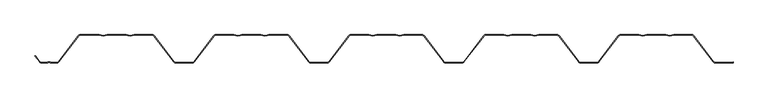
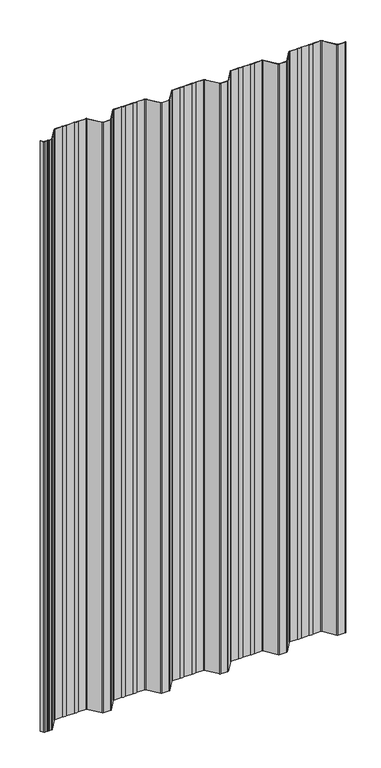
"""IFC4 building model written with IfcOpenShell, lengths in millimetres: plate geometry, HIANSA - H20.F09.004-CHAPA PERFILADA FACHADA VERTICAL - MT42 - Panel de Muro Cortina : -."""

from ifc_helpers import new_model, si_unit, point, frame_2d, origin, origin_with_axes, place, context, project, spatial, polyline, circle_curve, trimmed, segment, composite_curve, outline, extrude, source, transform, mapped, element, save


def plate_37bc8b78(model_context):
    return source(origin(), model_context, "Body", "SweptSolid", [
        extrude(outline(composite_curve([segment(polyline([(53.2159218, -0.8), (26.0663002, -0.8)]), True, "CONTINUOUS"), segment(trimmed(circle_curve(frame_2d((19.9999998, 17.1)), 18.9), [point((26.0663002, -0.8))], [point((13.9336995, -0.8))], False, "CARTESIAN"), True, "CONTINUOUS"), segment(polyline([(13.9336995, -0.8), (-13.9336998, -0.8)]), True, "CONTINUOUS"), segment(trimmed(circle_curve(frame_2d((-20.0000002, 17.1)), 18.9), [point((-13.9336998, -0.8))], [point((-26.0663005, -0.8))], False, "CARTESIAN"), True, "CONTINUOUS"), segment(polyline([(-26.0663005, -0.8), (-53.2159221, -0.8)]), True, "CONTINUOUS"), segment(trimmed(circle_curve(frame_2d((-53.2159221, -3.4)), 2.6), [point((-53.2159221, -0.8))], [point((-55.2841531, -1.8244302))], True, "CARTESIAN"), True, "CONTINUOUS"), segment(polyline([(-55.2841531, -1.8244302), (-84.9453835, -40.7603606)]), True, "CONTINUOUS"), segment(trimmed(circle_curve(frame_2d((-87.6499934, -38.7)), 3.4), [point((-84.9453835, -40.7603606))], [point((-87.6499934, -42.1))], False, "CARTESIAN"), True, "CONTINUOUS"), segment(polyline([(-87.6499934, -42.1), (-112.350007, -42.1)]), True, "CONTINUOUS"), segment(trimmed(circle_curve(frame_2d((-112.350007, -38.7)), 3.4), [point((-112.350007, -42.1))], [point((-115.0546168, -40.7603606))], False, "CARTESIAN"), True, "CONTINUOUS"), segment(polyline([(-115.0546168, -40.7603606), (-144.7158472, -1.8244302)]), True, "CONTINUOUS"), segment(trimmed(circle_curve(frame_2d((-146.7840782, -3.4)), 2.6), [point((-144.7158472, -1.8244302))], [point((-146.7840782, -0.8))], True, "CARTESIAN"), True, "CONTINUOUS"), segment(polyline([(-146.7840782, -0.8), (-173.9336998, -0.8)]), True, "CONTINUOUS"), segment(trimmed(circle_curve(frame_2d((-180.0000002, 17.1)), 18.9), [point((-173.9336998, -0.8))], [point((-186.0663005, -0.8))], False, "CARTESIAN"), True, "CONTINUOUS"), segment(polyline([(-186.0663005, -0.8), (-213.9336998, -0.8)]), True, "CONTINUOUS"), segment(trimmed(circle_curve(frame_2d((-220.0000002, 17.1)), 18.9), [point((-213.9336998, -0.8))], [point((-226.0663005, -0.8))], False, "CARTESIAN"), True, "CONTINUOUS"), segment(polyline([(-226.0663005, -0.8), (-253.2159221, -0.8)]), True, "CONTINUOUS"), segment(trimmed(circle_curve(frame_2d((-253.2159221, -3.4)), 2.6), [point((-253.2159221, -0.8))], [point((-255.2841531, -1.8244302))], True, "CARTESIAN"), True, "CONTINUOUS"), segment(polyline([(-255.2841531, -1.8244302), (-284.9453835, -40.7603606)]), True, "CONTINUOUS"), segment(trimmed(circle_curve(frame_2d((-287.6499934, -38.7)), 3.4), [point((-284.9453835, -40.7603606))], [point((-287.6499934, -42.1))], False, "CARTESIAN"), True, "CONTINUOUS"), segment(polyline([(-287.6499934, -42.1), (-312.350007, -42.1)]), True, "CONTINUOUS"), segment(trimmed(circle_curve(frame_2d((-312.350007, -38.7)), 3.4), [point((-312.350007, -42.1))], [point((-315.0546168, -40.7603606))], False, "CARTESIAN"), True, "CONTINUOUS"), segment(polyline([(-315.0546168, -40.7603606), (-344.7158472, -1.8244302)]), True, "CONTINUOUS"), segment(trimmed(circle_curve(frame_2d((-346.7840782, -3.4)), 2.6), [point((-344.7158472, -1.8244302))], [point((-346.7840782, -0.8))], True, "CARTESIAN"), True, "CONTINUOUS"), segment(polyline([(-346.7840782, -0.8), (-373.9336998, -0.8)]), True, "CONTINUOUS"), segment(trimmed(circle_curve(frame_2d((-380.0000002, 17.1)), 18.9), [point((-373.9336998, -0.8))], [point((-386.0663005, -0.8))], False, "CARTESIAN"), True, "CONTINUOUS"), segment(polyline([(-386.0663005, -0.8), (-413.9336998, -0.8)]), True, "CONTINUOUS"), segment(trimmed(circle_curve(frame_2d((-420.0000002, 17.1)), 18.9), [point((-413.9336998, -0.8))], [point((-426.0663005, -0.8))], False, "CARTESIAN"), True, "CONTINUOUS"), segment(polyline([(-426.0663005, -0.8), (-454.050007, -0.8)]), True, "CONTINUOUS"), segment(trimmed(circle_curve(frame_2d((-454.050007, -3.4)), 2.6), [point((-454.050007, -0.8))], [point((-456.118238, -1.8244302))], True, "CARTESIAN"), True, "CONTINUOUS"), segment(polyline([(-456.118238, -1.8244302), (-485.7794684, -40.7603606)]), True, "CONTINUOUS"), segment(trimmed(circle_curve(frame_2d((-488.4840782, -38.7)), 3.4), [point((-485.7794684, -40.7603606))], [point((-488.4840782, -42.1))], False, "CARTESIAN"), True, "CONTINUOUS"), segment(polyline([(-488.4840782, -42.1), (-497.2431904, -42.1)]), True, "CONTINUOUS"), segment(trimmed(circle_curve(frame_2d((-497.2431904, -40.8)), 1.3), [point((-497.2431904, -42.1))], [point((-498.0766445, -41.7976744))], False, "CARTESIAN"), True, "CONTINUOUS"), segment(trimmed(circle_curve(frame_2d((-500.0000002, -44.1)), 3.0), [point((-498.0766445, -41.7976744))], [point((-501.9233558, -41.7976744))], True, "CARTESIAN"), True, "CONTINUOUS"), segment(trimmed(circle_curve(frame_2d((-502.7568099, -40.8)), 1.3), [point((-501.9233558, -41.7976744))], [point((-502.7568099, -42.1))], False, "CARTESIAN"), True, "CONTINUOUS"), segment(polyline([(-502.7568099, -42.1), (-511.5159221, -42.1)]), True, "CONTINUOUS"), segment(trimmed(circle_curve(frame_2d((-511.5159221, -38.7)), 3.4), [point((-511.5159221, -42.1))], [point((-514.2205319, -40.7603606))], False, "CARTESIAN"), True, "CONTINUOUS"), segment(polyline([(-514.2205319, -40.7603606), (-521.0778494, -31.7588447), (-520.072159, -31.7588447), (-513.5841531, -40.2755698)]), True, "CONTINUOUS"), segment(trimmed(circle_curve(frame_2d((-511.5159221, -38.7)), 2.6), [point((-513.5841531, -40.2755698))], [point((-511.5159221, -41.3))], True, "CARTESIAN"), True, "CONTINUOUS"), segment(polyline([(-511.5159221, -41.3), (-502.5690467, -41.3)]), True, "CONTINUOUS"), segment(trimmed(circle_curve(frame_2d((-500.0000002, -44.1)), 3.8), [point((-502.5690467, -41.3))], [point((-497.4309536, -41.3))], False, "CARTESIAN"), True, "CONTINUOUS"), segment(polyline([(-497.4309536, -41.3), (-488.4840782, -41.3)]), True, "CONTINUOUS"), segment(trimmed(circle_curve(frame_2d((-488.4840782, -38.7)), 2.6), [point((-488.4840782, -41.3))], [point((-486.4158472, -40.2755698))], True, "CARTESIAN"), True, "CONTINUOUS"), segment(polyline([(-486.4158472, -40.2755698), (-456.7546168, -1.3396394)]), True, "CONTINUOUS"), segment(trimmed(circle_curve(frame_2d((-454.050007, -3.4)), 3.4), [point((-456.7546168, -1.3396394))], [point((-454.050007, 0.0))], False, "CARTESIAN"), True, "CONTINUOUS"), segment(polyline([(-454.050007, 0.0), (-425.9329589, 0.0)]), True, "CONTINUOUS"), segment(trimmed(circle_curve(frame_2d((-420.0000002, 17.1)), 18.1), [point((-425.9329589, 0.0))], [point((-414.0670414, 0.0))], True, "CARTESIAN"), True, "CONTINUOUS"), segment(polyline([(-414.0670414, 0.0), (-385.9329589, 0.0)]), True, "CONTINUOUS"), segment(trimmed(circle_curve(frame_2d((-380.0000002, 17.1)), 18.1), [point((-385.9329589, 0.0))], [point((-374.0670414, 0.0))], True, "CARTESIAN"), True, "CONTINUOUS"), segment(polyline([(-374.0670414, 0.0), (-346.7840782, 0.0)]), True, "CONTINUOUS"), segment(trimmed(circle_curve(frame_2d((-346.7840782, -3.4)), 3.4), [point((-346.7840782, 0.0))], [point((-344.0794684, -1.3396394))], False, "CARTESIAN"), True, "CONTINUOUS"), segment(polyline([(-344.0794684, -1.3396394), (-314.418238, -40.2755698)]), True, "CONTINUOUS"), segment(trimmed(circle_curve(frame_2d((-312.350007, -38.7)), 2.6), [point((-314.418238, -40.2755698))], [point((-312.350007, -41.3))], True, "CARTESIAN"), True, "CONTINUOUS"), segment(polyline([(-312.350007, -41.3), (-287.6499934, -41.3)]), True, "CONTINUOUS"), segment(trimmed(circle_curve(frame_2d((-287.6499934, -38.7)), 2.6), [point((-287.6499934, -41.3))], [point((-285.5817623, -40.2755698))], True, "CARTESIAN"), True, "CONTINUOUS"), segment(polyline([(-285.5817623, -40.2755698), (-255.9205319, -1.3396394)]), True, "CONTINUOUS"), segment(trimmed(circle_curve(frame_2d((-253.2159221, -3.4)), 3.4), [point((-255.9205319, -1.3396394))], [point((-253.2159221, 0.0))], False, "CARTESIAN"), True, "CONTINUOUS"), segment(polyline([(-253.2159221, 0.0), (-225.9329589, 0.0)]), True, "CONTINUOUS"), segment(trimmed(circle_curve(frame_2d((-220.0000002, 17.1)), 18.1), [point((-225.9329589, 0.0))], [point((-214.0670414, 0.0))], True, "CARTESIAN"), True, "CONTINUOUS"), segment(polyline([(-214.0670414, 0.0), (-185.9329589, 0.0)]), True, "CONTINUOUS"), segment(trimmed(circle_curve(frame_2d((-180.0000002, 17.1)), 18.1), [point((-185.9329589, 0.0))], [point((-174.0670414, 0.0))], True, "CARTESIAN"), True, "CONTINUOUS"), segment(polyline([(-174.0670414, 0.0), (-146.7840782, 0.0)]), True, "CONTINUOUS"), segment(trimmed(circle_curve(frame_2d((-146.7840782, -3.4)), 3.4), [point((-146.7840782, 0.0))], [point((-144.0794684, -1.3396394))], False, "CARTESIAN"), True, "CONTINUOUS"), segment(polyline([(-144.0794684, -1.3396394), (-114.418238, -40.2755698)]), True, "CONTINUOUS"), segment(trimmed(circle_curve(frame_2d((-112.350007, -38.7)), 2.6), [point((-114.418238, -40.2755698))], [point((-112.350007, -41.3))], True, "CARTESIAN"), True, "CONTINUOUS"), segment(polyline([(-112.350007, -41.3), (-87.6499934, -41.3)]), True, "CONTINUOUS"), segment(trimmed(circle_curve(frame_2d((-87.6499934, -38.7)), 2.6), [point((-87.6499934, -41.3))], [point((-85.5817623, -40.2755698))], True, "CARTESIAN"), True, "CONTINUOUS"), segment(polyline([(-85.5817623, -40.2755698), (-55.9205319, -1.3396394)]), True, "CONTINUOUS"), segment(trimmed(circle_curve(frame_2d((-53.2159221, -3.4)), 3.4), [point((-55.9205319, -1.3396394))], [point((-53.2159221, 0.0))], False, "CARTESIAN"), True, "CONTINUOUS"), segment(polyline([(-53.2159221, 0.0), (-25.9329589, 0.0)]), True, "CONTINUOUS"), segment(trimmed(circle_curve(frame_2d((-20.0000002, 17.1)), 18.1), [point((-25.9329589, 0.0))], [point((-14.0670414, 0.0))], True, "CARTESIAN"), True, "CONTINUOUS"), segment(polyline([(-14.0670414, 0.0), (14.0670411, 0.0)]), True, "CONTINUOUS"), segment(trimmed(circle_curve(frame_2d((19.9999998, 17.1)), 18.1), [point((14.0670411, 0.0))], [point((25.9329586, 0.0))], True, "CARTESIAN"), True, "CONTINUOUS"), segment(polyline([(25.9329586, 0.0), (53.2159218, 0.0)]), True, "CONTINUOUS"), segment(trimmed(circle_curve(frame_2d((53.2159218, -3.4)), 3.4), [point((53.2159218, 0.0))], [point((55.9205316, -1.3396394))], False, "CARTESIAN"), True, "CONTINUOUS"), segment(polyline([(55.9205316, -1.3396394), (85.581762, -40.2755698)]), True, "CONTINUOUS"), segment(trimmed(circle_curve(frame_2d((87.649993, -38.7)), 2.6), [point((85.581762, -40.2755698))], [point((87.649993, -41.3))], True, "CARTESIAN"), True, "CONTINUOUS"), segment(polyline([(87.649993, -41.3), (112.3500066, -41.3)]), True, "CONTINUOUS"), segment(trimmed(circle_curve(frame_2d((112.3500066, -38.7)), 2.6), [point((112.3500066, -41.3))], [point((114.4182377, -40.2755698))], True, "CARTESIAN"), True, "CONTINUOUS"), segment(polyline([(114.4182377, -40.2755698), (144.0794681, -1.3396394)]), True, "CONTINUOUS"), segment(trimmed(circle_curve(frame_2d((146.7840779, -3.4)), 3.4), [point((144.0794681, -1.3396394))], [point((146.7840779, 0.0))], False, "CARTESIAN"), True, "CONTINUOUS"), segment(polyline([(146.7840779, 0.0), (174.0670411, 0.0)]), True, "CONTINUOUS"), segment(trimmed(circle_curve(frame_2d((179.9999998, 17.1)), 18.1), [point((174.0670411, 0.0))], [point((185.9329586, 0.0))], True, "CARTESIAN"), True, "CONTINUOUS"), segment(polyline([(185.9329586, 0.0), (214.0670411, 0.0)]), True, "CONTINUOUS"), segment(trimmed(circle_curve(frame_2d((219.9999998, 17.1)), 18.1), [point((214.0670411, 0.0))], [point((225.9329586, 0.0))], True, "CARTESIAN"), True, "CONTINUOUS"), segment(polyline([(225.9329586, 0.0), (253.2159218, 0.0)]), True, "CONTINUOUS"), segment(trimmed(circle_curve(frame_2d((253.2159218, -3.4)), 3.4), [point((253.2159218, 0.0))], [point((255.9205316, -1.3396394))], False, "CARTESIAN"), True, "CONTINUOUS"), segment(polyline([(255.9205316, -1.3396394), (285.581762, -40.2755698)]), True, "CONTINUOUS"), segment(trimmed(circle_curve(frame_2d((287.649993, -38.7)), 2.6), [point((285.581762, -40.2755698))], [point((287.649993, -41.3))], True, "CARTESIAN"), True, "CONTINUOUS"), segment(polyline([(287.649993, -41.3), (312.3500066, -41.3)]), True, "CONTINUOUS"), segment(trimmed(circle_curve(frame_2d((312.3500066, -38.7)), 2.6), [point((312.3500066, -41.3))], [point((314.4182377, -40.2755698))], True, "CARTESIAN"), True, "CONTINUOUS"), segment(polyline([(314.4182377, -40.2755698), (344.0794681, -1.3396394)]), True, "CONTINUOUS"), segment(trimmed(circle_curve(frame_2d((346.7840779, -3.4)), 3.4), [point((344.0794681, -1.3396394))], [point((346.7840779, 0.0))], False, "CARTESIAN"), True, "CONTINUOUS"), segment(polyline([(346.7840779, 0.0), (374.0670411, 0.0)]), True, "CONTINUOUS"), segment(trimmed(circle_curve(frame_2d((379.9999998, 17.1)), 18.1), [point((374.0670411, 0.0))], [point((385.9329586, 0.0))], True, "CARTESIAN"), True, "CONTINUOUS"), segment(polyline([(385.9329586, 0.0), (414.0670411, 0.0)]), True, "CONTINUOUS"), segment(trimmed(circle_curve(frame_2d((419.9999998, 17.1)), 18.1), [point((414.0670411, 0.0))], [point((425.9329586, 0.0))], True, "CARTESIAN"), True, "CONTINUOUS"), segment(polyline([(425.9329586, 0.0), (453.2159218, 0.0)]), True, "CONTINUOUS"), segment(trimmed(circle_curve(frame_2d((453.2159218, -3.4)), 3.4), [point((453.2159218, 0.0))], [point((455.9205316, -1.3396394))], False, "CARTESIAN"), True, "CONTINUOUS"), segment(polyline([(455.9205316, -1.3396394), (485.581762, -40.2755698)]), True, "CONTINUOUS"), segment(trimmed(circle_curve(frame_2d((487.649993, -38.7)), 2.6), [point((485.581762, -40.2755698))], [point((487.649993, -41.3))], True, "CARTESIAN"), True, "CONTINUOUS"), segment(polyline([(487.649993, -41.3), (512.3500066, -41.3)]), True, "CONTINUOUS"), segment(trimmed(circle_curve(frame_2d((512.3500066, -38.7)), 2.6), [point((512.3500066, -41.3))], [point((514.0, -40.7093586))], True, "CARTESIAN"), True, "CONTINUOUS"), segment(polyline([(514.0, -40.7093586), (514.0, -41.672797)]), True, "CONTINUOUS"), segment(trimmed(circle_curve(frame_2d((512.3500066, -38.7)), 3.4), [point((514.0, -41.672797))], [point((512.3500066, -42.1))], False, "CARTESIAN"), True, "CONTINUOUS"), segment(polyline([(512.3500066, -42.1), (487.649993, -42.1)]), True, "CONTINUOUS"), segment(trimmed(circle_curve(frame_2d((487.649993, -38.7)), 3.4), [point((487.649993, -42.1))], [point((484.9453832, -40.7603606))], False, "CARTESIAN"), True, "CONTINUOUS"), segment(polyline([(484.9453832, -40.7603606), (455.2841528, -1.8244302)]), True, "CONTINUOUS"), segment(trimmed(circle_curve(frame_2d((453.2159218, -3.4)), 2.6), [point((455.2841528, -1.8244302))], [point((453.2159218, -0.8))], True, "CARTESIAN"), True, "CONTINUOUS"), segment(polyline([(453.2159218, -0.8), (426.0663002, -0.8)]), True, "CONTINUOUS"), segment(trimmed(circle_curve(frame_2d((419.9999998, 17.1)), 18.9), [point((426.0663002, -0.8))], [point((413.9336995, -0.8))], False, "CARTESIAN"), True, "CONTINUOUS"), segment(polyline([(413.9336995, -0.8), (386.0663002, -0.8)]), True, "CONTINUOUS"), segment(trimmed(circle_curve(frame_2d((379.9999998, 17.1)), 18.9), [point((386.0663002, -0.8))], [point((373.9336995, -0.8))], False, "CARTESIAN"), True, "CONTINUOUS"), segment(polyline([(373.9336995, -0.8), (346.7840779, -0.8)]), True, "CONTINUOUS"), segment(trimmed(circle_curve(frame_2d((346.7840779, -3.4)), 2.6), [point((346.7840779, -0.8))], [point((344.7158469, -1.8244302))], True, "CARTESIAN"), True, "CONTINUOUS"), segment(polyline([(344.7158469, -1.8244302), (315.0546165, -40.7603606)]), True, "CONTINUOUS"), segment(trimmed(circle_curve(frame_2d((312.3500066, -38.7)), 3.4), [point((315.0546165, -40.7603606))], [point((312.3500066, -42.1))], False, "CARTESIAN"), True, "CONTINUOUS"), segment(polyline([(312.3500066, -42.1), (287.649993, -42.1)]), True, "CONTINUOUS"), segment(trimmed(circle_curve(frame_2d((287.649993, -38.7)), 3.4), [point((287.649993, -42.1))], [point((284.9453832, -40.7603606))], False, "CARTESIAN"), True, "CONTINUOUS"), segment(polyline([(284.9453832, -40.7603606), (255.2841528, -1.8244302)]), True, "CONTINUOUS"), segment(trimmed(circle_curve(frame_2d((253.2159218, -3.4)), 2.6), [point((255.2841528, -1.8244302))], [point((253.2159218, -0.8))], True, "CARTESIAN"), True, "CONTINUOUS"), segment(polyline([(253.2159218, -0.8), (226.0663002, -0.8)]), True, "CONTINUOUS"), segment(trimmed(circle_curve(frame_2d((219.9999998, 17.1)), 18.9), [point((226.0663002, -0.8))], [point((213.9336995, -0.8))], False, "CARTESIAN"), True, "CONTINUOUS"), segment(polyline([(213.9336995, -0.8), (186.0663002, -0.8)]), True, "CONTINUOUS"), segment(trimmed(circle_curve(frame_2d((179.9999998, 17.1)), 18.9), [point((186.0663002, -0.8))], [point((173.9336995, -0.8))], False, "CARTESIAN"), True, "CONTINUOUS"), segment(polyline([(173.9336995, -0.8), (146.7840779, -0.8)]), True, "CONTINUOUS"), segment(trimmed(circle_curve(frame_2d((146.7840779, -3.4)), 2.6), [point((146.7840779, -0.8))], [point((144.7158469, -1.8244302))], True, "CARTESIAN"), True, "CONTINUOUS"), segment(polyline([(144.7158469, -1.8244302), (115.0546165, -40.7603606)]), True, "CONTINUOUS"), segment(trimmed(circle_curve(frame_2d((112.3500066, -38.7)), 3.4), [point((115.0546165, -40.7603606))], [point((112.3500066, -42.1))], False, "CARTESIAN"), True, "CONTINUOUS"), segment(polyline([(112.3500066, -42.1), (87.649993, -42.1)]), True, "CONTINUOUS"), segment(trimmed(circle_curve(frame_2d((87.649993, -38.7)), 3.4), [point((87.649993, -42.1))], [point((84.9453832, -40.7603606))], False, "CARTESIAN"), True, "CONTINUOUS"), segment(polyline([(84.9453832, -40.7603606), (55.2841528, -1.8244302)]), True, "CONTINUOUS"), segment(trimmed(circle_curve(frame_2d((53.2159218, -3.4)), 2.6), [point((55.2841528, -1.8244302))], [point((53.2159218, -0.8))], True, "CARTESIAN"), True, "CONTINUOUS")], self_intersect=False)), origin_with_axes(), (0.0, 0.0, 1.0), 2128.0),
    ])


if __name__ == "__main__":
    model = new_model("IFC4")
    model_context = context("Model", 3, world=origin())
    ifc_project = project(units=[si_unit("LENGTHUNIT", "METRE", prefix="MILLI")], contexts=[model_context])
    site = spatial("IfcSite", under=ifc_project)
    building = spatial("IfcBuilding", under=site)
    placement = place(None, origin())
    plate_shape = plate_37bc8b78(model_context)
    element("IfcPlate", 1, ObjectType="HIANSA - H20.F09.004-CHAPA PERFILADA FACHADA VERTICAL - MT42 - Panel de Muro Cortina : -", at=placement, inside=building, context=model_context, shape_type="MappedRepresentation", body=[
        mapped(plate_shape, transform((0.0, 0.0, 0.0), x_axis=(1.0, 0.0, 0.0), y_axis=(0.0, 1.0, 0.0), z_axis=(0.0, 0.0, 1.0))),
    ])
    save(model, "model.ifc")
